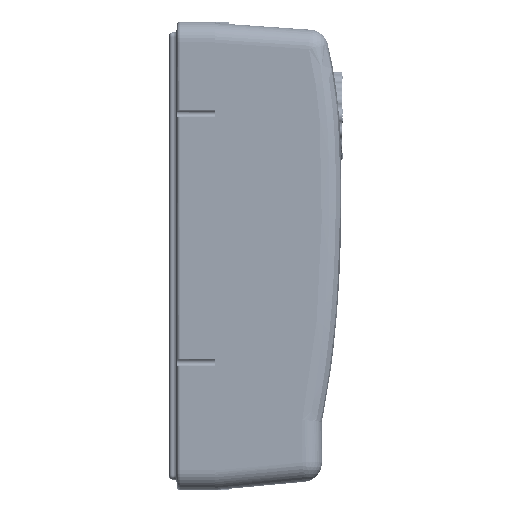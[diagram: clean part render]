
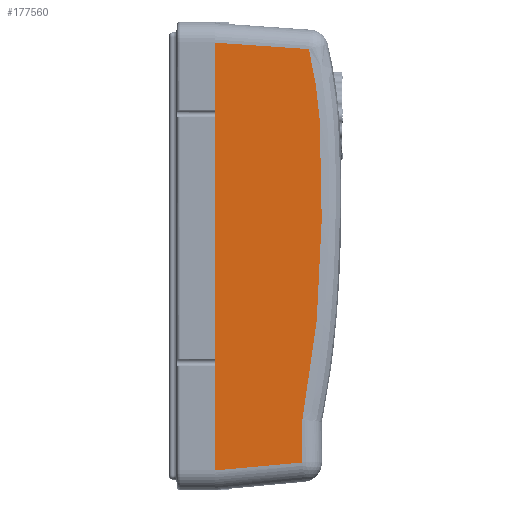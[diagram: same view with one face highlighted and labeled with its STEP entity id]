
A CAD part, front view. The second image highlights one B-rep face of the part: STEP entity #177560.
In plain terms, the highlighted planar face has unit normal (0, -1, 0) as drawn and (-1, 0, 0) by its records, which use the part's own axes.
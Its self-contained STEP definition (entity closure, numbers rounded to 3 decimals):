
#7112 = CARTESIAN_POINT ( 'NONE',  ( -96., -174.769, 127.573 ) ) ;
#16171 = FACE_OUTER_BOUND ( 'NONE', #415706, .T. ) ;
#27478 = CARTESIAN_POINT ( 'NONE',  ( -96., -55.171, 88.545 ) ) ;
#31220 = EDGE_CURVE ( 'NONE', #95912, #365568, #98372, .T. ) ;
#31628 = CARTESIAN_POINT ( 'NONE',  ( -96., 127.444, 90.571 ) ) ;
#37990 = CARTESIAN_POINT ( 'NONE',  ( -96., -179.483, 76. ) ) ;
#47458 = ORIENTED_EDGE ( 'NONE', *, *, #340440, .T. ) ;
#48683 = DIRECTION ( 'NONE',  ( 0., 1., 0. ) ) ;
#52136 = DIRECTION ( 'NONE',  ( 0., 1., 0. ) ) ;
#56297 = PLANE ( 'NONE',  #63599 ) ;
#59214 = CARTESIAN_POINT ( 'NONE',  ( -96., -34.896, 90.14 ) ) ;
#61309 = CARTESIAN_POINT ( 'NONE',  ( -96., -140.631, 76.337 ) ) ;
#63390 = CARTESIAN_POINT ( 'NONE',  ( -96., 73.458, 93.027 ) ) ;
#63599 = AXIS2_PLACEMENT_3D ( 'NONE', #250742, #145084, #52136 ) ;
#64306 = CARTESIAN_POINT ( 'NONE',  ( -96., -186.429, 0. ) ) ;
#78289 = LINE ( 'NONE', #112061, #148406 ) ;
#90913 = CARTESIAN_POINT ( 'NONE',  ( -96., -128.98, 78.604 ) ) ;
#95071 = CARTESIAN_POINT ( 'NONE',  ( -96., 32.801, 92.836 ) ) ;
#95912 = VERTEX_POINT ( 'NONE', #201960 ) ;
#97150 = CARTESIAN_POINT ( 'NONE',  ( -96., 167.602, 84.892 ) ) ;
#98372 = LINE ( 'NONE', #235570, #147242 ) ;
#112061 = CARTESIAN_POINT ( 'NONE',  ( -96., -144., 76. ) ) ;
#121456 = CARTESIAN_POINT ( 'NONE',  ( -96., 203.5, 0. ) ) ;
#122618 = CARTESIAN_POINT ( 'NONE',  ( -96., -133.977, 77.654 ) ) ;
#124677 = CARTESIAN_POINT ( 'NONE',  ( -96., 53.134, 93.021 ) ) ;
#128810 = CARTESIAN_POINT ( 'NONE',  ( -96., 113.984, 91.598 ) ) ;
#134880 = VERTEX_POINT ( 'NONE', #64306 ) ;
#134900 = EDGE_CURVE ( 'NONE', #365568, #134880, #254611, .T. ) ;
#135980 = DIRECTION ( 'NONE',  ( 0., 0.091, 0.996 ) ) ;
#145084 = DIRECTION ( 'NONE',  ( 1., 0., 0. ) ) ;
#147242 = VECTOR ( 'NONE', #356324, 1000. ) ;
#148406 = VECTOR ( 'NONE', #48683, 1000. ) ;
#156341 = CARTESIAN_POINT ( 'NONE',  ( -96., 5.705, 92.229 ) ) ;
#158414 = CARTESIAN_POINT ( 'NONE',  ( -96., -108.944, 82.034 ) ) ;
#159162 = CARTESIAN_POINT ( 'NONE',  ( -96., 186.46, 0. ) ) ;
#162894 = EDGE_CURVE ( 'NONE', #134880, #250856, #201557, .T. ) ;
#177560 = ADVANCED_FACE ( 'NONE', ( #16171 ), #56297, .F. ) ;
#192296 = CARTESIAN_POINT ( 'NONE',  ( -96., 86.991, 92.826 ) ) ;
#197075 = CARTESIAN_POINT ( 'NONE',  ( -96., -142.293, 76. ) ) ;
#201557 = LINE ( 'NONE', #7112, #396894 ) ;
#201960 = CARTESIAN_POINT ( 'NONE',  ( -96., 180.871, 81.647 ) ) ;
#219846 = CARTESIAN_POINT ( 'NONE',  ( -96., -125.646, 79.211 ) ) ;
#221909 = CARTESIAN_POINT ( 'NONE',  ( -96., -88.845, 84.981 ) ) ;
#223998 = CARTESIAN_POINT ( 'NONE',  ( -96., 46.355, 92.981 ) ) ;
#228480 = B_SPLINE_CURVE_WITH_KNOTS ( 'NONE', 3,
 ( #388896, #61309, #289532, #412294, #122618, #90913, #219846, #348837, #158414, #221909, #355097, #27478, #319158, #59214, #416443, #255772, #156341, #384716, #95071, #414378, #223998, #124677, #353009, #63390, #192296, #128810, #31628, #386818, #97150, #390960 ),
 .UNSPECIFIED., .F., .F.,
 ( 4, 2, 2, 2, 2, 2, 2, 2, 2, 2, 2, 2, 2, 2, 4 ),
 ( 0., 0.005, 0.01, 0.02, 0.041, 0.081, 0.102, 0.122, 0.163, 0.183, 0.193, 0.203, 0.244, 0.285, 0.326 ),
 .UNSPECIFIED. ) ;
#235570 = CARTESIAN_POINT ( 'NONE',  ( -96., 180.203, 91.405 ) ) ;
#237947 = ORIENTED_EDGE ( 'NONE', *, *, #162894, .T. ) ;
#250742 = CARTESIAN_POINT ( 'NONE',  ( -96., 203.5, 93. ) ) ;
#250856 = VERTEX_POINT ( 'NONE', #37990 ) ;
#254611 = LINE ( 'NONE', #121456, #320852 ) ;
#255772 = CARTESIAN_POINT ( 'NONE',  ( -96., -7.836, 91.716 ) ) ;
#271003 = ORIENTED_EDGE ( 'NONE', *, *, #134900, .T. ) ;
#284758 = ORIENTED_EDGE ( 'NONE', *, *, #396430, .T. ) ;
#289532 = CARTESIAN_POINT ( 'NONE',  ( -96., -138.969, 76.674 ) ) ;
#290895 = VERTEX_POINT ( 'NONE', #197075 ) ;
#319158 = CARTESIAN_POINT ( 'NONE',  ( -96., -48.418, 89.122 ) ) ;
#320852 = VECTOR ( 'NONE', #381464, 1000. ) ;
#340440 = EDGE_CURVE ( 'NONE', #290895, #95912, #228480, .T. ) ;
#348837 = CARTESIAN_POINT ( 'NONE',  ( -96., -115.632, 80.963 ) ) ;
#353009 = CARTESIAN_POINT ( 'NONE',  ( -96., 56.522, 93.033 ) ) ;
#355097 = CARTESIAN_POINT ( 'NONE',  ( -96., -75.399, 86.587 ) ) ;
#356324 = DIRECTION ( 'NONE',  ( 0., 0.068, -0.998 ) ) ;
#365568 = VERTEX_POINT ( 'NONE', #159162 ) ;
#381464 = DIRECTION ( 'NONE',  ( 0., -1., 0. ) ) ;
#384716 = CARTESIAN_POINT ( 'NONE',  ( -96., 26.026, 92.719 ) ) ;
#386818 = CARTESIAN_POINT ( 'NONE',  ( -96., 154.253, 87.217 ) ) ;
#388896 = CARTESIAN_POINT ( 'NONE',  ( -96., -142.293, 76. ) ) ;
#390960 = CARTESIAN_POINT ( 'NONE',  ( -96., 180.871, 81.647 ) ) ;
#396430 = EDGE_CURVE ( 'NONE', #250856, #290895, #78289, .T. ) ;
#396894 = VECTOR ( 'NONE', #135980, 1000. ) ;
#404006 = ORIENTED_EDGE ( 'NONE', *, *, #31220, .T. ) ;
#412294 = CARTESIAN_POINT ( 'NONE',  ( -96., -135.642, 77.332 ) ) ;
#414378 = CARTESIAN_POINT ( 'NONE',  ( -96., 42.967, 92.952 ) ) ;
#415706 = EDGE_LOOP ( 'NONE', ( #271003, #237947, #284758, #47458, #404006 ) ) ;
#416443 = CARTESIAN_POINT ( 'NONE',  ( -96., -28.133, 90.58 ) ) ;
